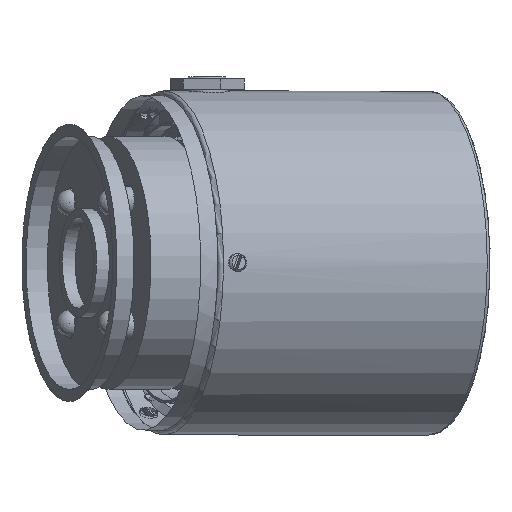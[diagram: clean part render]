
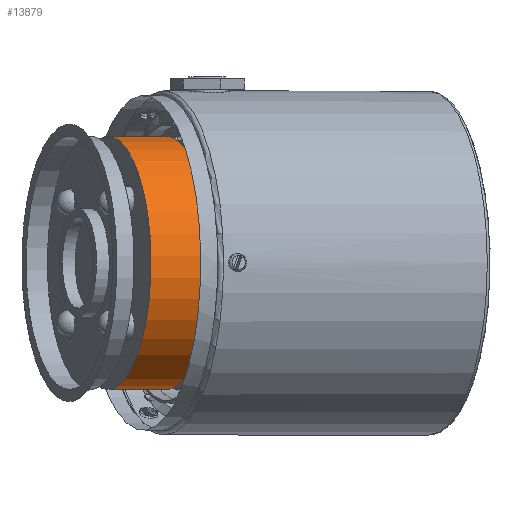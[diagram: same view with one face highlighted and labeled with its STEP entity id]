
A CAD part, top view. The second image highlights one B-rep face of the part: STEP entity #13879.
In plain terms, the highlighted cylindrical face has radius 14 mm (diameter 28 mm), a full revolution.
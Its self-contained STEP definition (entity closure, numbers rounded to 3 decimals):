
#1452=FACE_OUTER_BOUND('',#2299,.T.);
#2299=EDGE_LOOP('',(#11359,#11360,#11361,#11362,#11363,#11364));
#2988=CIRCLE('',#15050,14.);
#2989=CIRCLE('',#15051,14.);
#3113=CIRCLE('',#15282,14.);
#3114=CIRCLE('',#15283,14.);
#4131=LINE('',#23679,#4985);
#4985=VECTOR('',#18801,14.);
#5932=VERTEX_POINT('',#22651);
#5933=VERTEX_POINT('',#22652);
#6153=VERTEX_POINT('',#23674);
#6154=VERTEX_POINT('',#23675);
#7663=EDGE_CURVE('',#5932,#5933,#2988,.T.);
#7664=EDGE_CURVE('',#5933,#5932,#2989,.T.);
#7968=EDGE_CURVE('',#6153,#6154,#3113,.T.);
#7969=EDGE_CURVE('',#6154,#6153,#3114,.T.);
#7970=EDGE_CURVE('',#6154,#5933,#4131,.T.);
#11359=ORIENTED_EDGE('',*,*,#7968,.T.);
#11360=ORIENTED_EDGE('',*,*,#7970,.T.);
#11361=ORIENTED_EDGE('',*,*,#7663,.F.);
#11362=ORIENTED_EDGE('',*,*,#7664,.F.);
#11363=ORIENTED_EDGE('',*,*,#7970,.F.);
#11364=ORIENTED_EDGE('',*,*,#7969,.T.);
#12551=CYLINDRICAL_SURFACE('',#15284,14.);
#13879=ADVANCED_FACE('',(#1452),#12551,.F.);
#15050=AXIS2_PLACEMENT_3D('',#22653,#18234,#18235);
#15051=AXIS2_PLACEMENT_3D('',#22654,#18236,#18237);
#15282=AXIS2_PLACEMENT_3D('',#23676,#18795,#18796);
#15283=AXIS2_PLACEMENT_3D('',#23677,#18797,#18798);
#15284=AXIS2_PLACEMENT_3D('',#23678,#18799,#18800);
#18234=DIRECTION('center_axis',(-0.94,0.,
0.342));
#18235=DIRECTION('ref_axis',(-0.078,0.974,-0.214));
#18236=DIRECTION('center_axis',(-0.94,0.,
0.342));
#18237=DIRECTION('ref_axis',(-0.078,0.974,-0.214));
#18795=DIRECTION('center_axis',(-0.94,0.,
0.342));
#18796=DIRECTION('ref_axis',(-0.078,0.974,-0.214));
#18797=DIRECTION('center_axis',(-0.94,0.,
0.342));
#18798=DIRECTION('ref_axis',(-0.078,0.974,-0.214));
#18799=DIRECTION('center_axis',(-0.94,0.,
0.342));
#18800=DIRECTION('ref_axis',(-0.078,0.974,-0.214));
#18801=DIRECTION('',(0.94,0.,-0.342));
#22651=CARTESIAN_POINT('',(-19.952,19.739,86.379));
#22652=CARTESIAN_POINT('',(-17.769,-7.524,92.377));
#22653=CARTESIAN_POINT('Origin',(-18.86,6.108,89.378));
#22654=CARTESIAN_POINT('Origin',(-18.86,6.108,89.378));
#23674=CARTESIAN_POINT('',(-26.436,19.739,88.739));
#23675=CARTESIAN_POINT('',(-24.253,-7.524,94.737));
#23676=CARTESIAN_POINT('Origin',(-25.344,6.108,91.738));
#23677=CARTESIAN_POINT('Origin',(-25.344,6.108,91.738));
#23678=CARTESIAN_POINT('Origin',(-19.189,6.108,89.498));
#23679=CARTESIAN_POINT('',(-18.098,-7.524,92.497));
